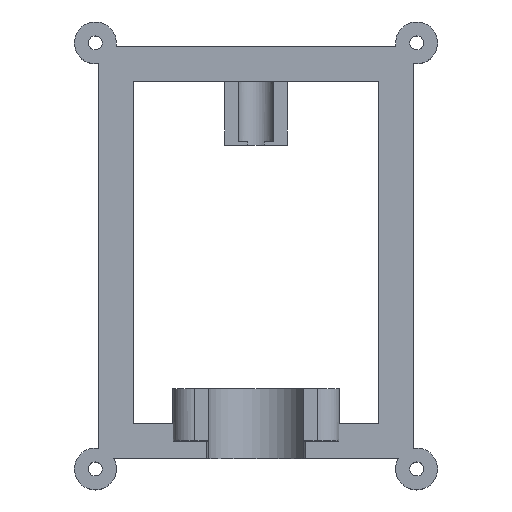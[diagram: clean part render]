
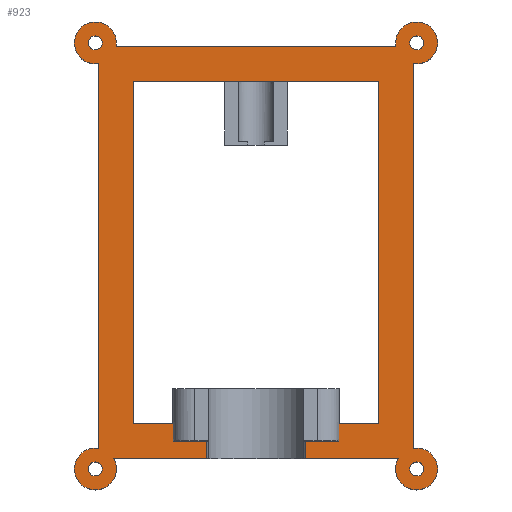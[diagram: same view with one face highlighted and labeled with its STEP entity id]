
A CAD part, top view. The second image highlights one B-rep face of the part: STEP entity #923.
In plain terms, the highlighted planar face has unit normal (0, 0, 1).
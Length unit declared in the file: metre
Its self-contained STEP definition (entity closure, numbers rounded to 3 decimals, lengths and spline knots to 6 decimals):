
#34=LINE('',#1378,#114);
#35=LINE('',#1383,#115);
#36=LINE('',#1387,#116);
#37=LINE('',#1391,#117);
#38=LINE('',#1393,#118);
#39=LINE('',#1395,#119);
#40=LINE('',#1397,#120);
#41=LINE('',#1399,#121);
#42=LINE('',#1401,#122);
#43=LINE('',#1403,#123);
#44=LINE('',#1405,#124);
#45=LINE('',#1407,#125);
#46=LINE('',#1409,#126);
#47=LINE('',#1411,#127);
#48=LINE('',#1413,#128);
#49=LINE('',#1415,#129);
#114=VECTOR('',#1096,1.);
#115=VECTOR('',#1099,1.);
#116=VECTOR('',#1102,1.);
#117=VECTOR('',#1105,1.);
#118=VECTOR('',#1106,1.);
#119=VECTOR('',#1107,1.);
#120=VECTOR('',#1108,1.);
#121=VECTOR('',#1109,1.);
#122=VECTOR('',#1110,1.);
#123=VECTOR('',#1111,1.);
#124=VECTOR('',#1112,1.);
#125=VECTOR('',#1113,1.);
#126=VECTOR('',#1114,1.);
#127=VECTOR('',#1115,1.);
#128=VECTOR('',#1116,1.);
#129=VECTOR('',#1117,1.);
#194=ORIENTED_EDGE('',*,*,#458,.T.);
#195=ORIENTED_EDGE('',*,*,#459,.F.);
#196=ORIENTED_EDGE('',*,*,#460,.F.);
#197=ORIENTED_EDGE('',*,*,#461,.F.);
#198=ORIENTED_EDGE('',*,*,#462,.T.);
#199=ORIENTED_EDGE('',*,*,#463,.F.);
#200=ORIENTED_EDGE('',*,*,#464,.T.);
#201=ORIENTED_EDGE('',*,*,#465,.T.);
#202=ORIENTED_EDGE('',*,*,#466,.T.);
#203=ORIENTED_EDGE('',*,*,#467,.T.);
#204=ORIENTED_EDGE('',*,*,#468,.T.);
#205=ORIENTED_EDGE('',*,*,#469,.T.);
#206=ORIENTED_EDGE('',*,*,#470,.F.);
#207=ORIENTED_EDGE('',*,*,#471,.F.);
#208=ORIENTED_EDGE('',*,*,#472,.F.);
#209=ORIENTED_EDGE('',*,*,#473,.T.);
#210=ORIENTED_EDGE('',*,*,#474,.T.);
#211=ORIENTED_EDGE('',*,*,#475,.F.);
#212=ORIENTED_EDGE('',*,*,#476,.T.);
#213=ORIENTED_EDGE('',*,*,#477,.T.);
#214=ORIENTED_EDGE('',*,*,#478,.F.);
#215=ORIENTED_EDGE('',*,*,#479,.T.);
#216=ORIENTED_EDGE('',*,*,#480,.T.);
#217=ORIENTED_EDGE('',*,*,#481,.T.);
#458=EDGE_CURVE('',#590,#590,#684,.T.);
#459=EDGE_CURVE('',#591,#591,#685,.T.);
#460=EDGE_CURVE('',#592,#592,#686,.T.);
#461=EDGE_CURVE('',#593,#594,#34,.T.);
#462=EDGE_CURVE('',#593,#595,#687,.T.);
#463=EDGE_CURVE('',#596,#595,#35,.T.);
#464=EDGE_CURVE('',#596,#597,#688,.T.);
#465=EDGE_CURVE('',#597,#598,#36,.T.);
#466=EDGE_CURVE('',#598,#599,#689,.T.);
#467=EDGE_CURVE('',#599,#600,#37,.T.);
#468=EDGE_CURVE('',#600,#601,#38,.T.);
#469=EDGE_CURVE('',#601,#602,#39,.T.);
#470=EDGE_CURVE('',#603,#602,#40,.T.);
#471=EDGE_CURVE('',#604,#603,#41,.T.);
#472=EDGE_CURVE('',#605,#604,#42,.T.);
#473=EDGE_CURVE('',#605,#606,#43,.T.);
#474=EDGE_CURVE('',#606,#607,#44,.T.);
#475=EDGE_CURVE('',#608,#607,#45,.T.);
#476=EDGE_CURVE('',#608,#609,#46,.T.);
#477=EDGE_CURVE('',#609,#610,#47,.T.);
#478=EDGE_CURVE('',#611,#610,#48,.T.);
#479=EDGE_CURVE('',#611,#612,#49,.T.);
#480=EDGE_CURVE('',#612,#594,#690,.T.);
#481=EDGE_CURVE('',#613,#613,#691,.T.);
#590=VERTEX_POINT('',#1373);
#591=VERTEX_POINT('',#1375);
#592=VERTEX_POINT('',#1377);
#593=VERTEX_POINT('',#1379);
#594=VERTEX_POINT('',#1380);
#595=VERTEX_POINT('',#1382);
#596=VERTEX_POINT('',#1384);
#597=VERTEX_POINT('',#1386);
#598=VERTEX_POINT('',#1388);
#599=VERTEX_POINT('',#1390);
#600=VERTEX_POINT('',#1392);
#601=VERTEX_POINT('',#1394);
#602=VERTEX_POINT('',#1396);
#603=VERTEX_POINT('',#1398);
#604=VERTEX_POINT('',#1400);
#605=VERTEX_POINT('',#1402);
#606=VERTEX_POINT('',#1404);
#607=VERTEX_POINT('',#1406);
#608=VERTEX_POINT('',#1408);
#609=VERTEX_POINT('',#1410);
#610=VERTEX_POINT('',#1412);
#611=VERTEX_POINT('',#1414);
#612=VERTEX_POINT('',#1416);
#613=VERTEX_POINT('',#1419);
#684=CIRCLE('',#986,0.002);
#685=CIRCLE('',#987,0.002);
#686=CIRCLE('',#988,0.002);
#687=CIRCLE('',#989,0.006);
#688=CIRCLE('',#990,0.006);
#689=CIRCLE('',#991,0.006);
#690=CIRCLE('',#992,0.006);
#691=CIRCLE('',#993,0.002);
#736=EDGE_LOOP('',(#194));
#737=EDGE_LOOP('',(#195));
#738=EDGE_LOOP('',(#196));
#739=EDGE_LOOP('',(#197,#198,#199,#200,#201,#202,#203,#204,#205,#206,#207,
#208,#209,#210,#211,#212,#213,#214,#215,#216));
#740=EDGE_LOOP('',(#217));
#816=FACE_BOUND('',#736,.T.);
#817=FACE_BOUND('',#737,.T.);
#818=FACE_BOUND('',#738,.T.);
#819=FACE_BOUND('',#739,.T.);
#820=FACE_BOUND('',#740,.T.);
#896=PLANE('',#985);
#923=ADVANCED_FACE('',(#816,#817,#818,#819,#820),#896,.T.);
#985=AXIS2_PLACEMENT_3D('',#1371,#1088,#1089);
#986=AXIS2_PLACEMENT_3D('',#1372,#1090,#1091);
#987=AXIS2_PLACEMENT_3D('',#1374,#1092,#1093);
#988=AXIS2_PLACEMENT_3D('',#1376,#1094,#1095);
#989=AXIS2_PLACEMENT_3D('',#1381,#1097,#1098);
#990=AXIS2_PLACEMENT_3D('',#1385,#1100,#1101);
#991=AXIS2_PLACEMENT_3D('',#1389,#1103,#1104);
#992=AXIS2_PLACEMENT_3D('',#1417,#1118,#1119);
#993=AXIS2_PLACEMENT_3D('',#1418,#1120,#1121);
#1088=DIRECTION('',(0.,0.,1.));
#1089=DIRECTION('',(1.,0.,0.));
#1090=DIRECTION('',(0.,0.,-1.));
#1091=DIRECTION('',(1.,0.,0.));
#1092=DIRECTION('',(0.,0.,1.));
#1093=DIRECTION('',(1.,0.,0.));
#1094=DIRECTION('',(0.,0.,1.));
#1095=DIRECTION('',(1.,0.,0.));
#1096=DIRECTION('',(0.,-1.,0.));
#1097=DIRECTION('',(0.,0.,1.));
#1098=DIRECTION('',(1.,0.,0.));
#1099=DIRECTION('',(1.,0.,0.));
#1100=DIRECTION('',(0.,0.,1.));
#1101=DIRECTION('',(1.,0.,0.));
#1102=DIRECTION('',(0.,-1.,0.));
#1103=DIRECTION('',(0.,0.,1.));
#1104=DIRECTION('',(1.,0.,0.));
#1105=DIRECTION('',(1.,0.,0.));
#1106=DIRECTION('',(0.,1.,0.));
#1107=DIRECTION('',(-1.,0.,0.));
#1108=DIRECTION('',(0.,-1.,0.));
#1109=DIRECTION('',(1.,0.,0.));
#1110=DIRECTION('',(0.,-1.,0.));
#1111=DIRECTION('',(1.,0.,0.));
#1112=DIRECTION('',(0.,-1.,0.));
#1113=DIRECTION('',(1.,0.,0.));
#1114=DIRECTION('',(0.,-1.,0.));
#1115=DIRECTION('',(-1.,0.,0.));
#1116=DIRECTION('',(0.,1.,0.));
#1117=DIRECTION('',(1.,0.,0.));
#1118=DIRECTION('',(0.,0.,1.));
#1119=DIRECTION('',(1.,0.,0.));
#1120=DIRECTION('',(0.,0.,-1.));
#1121=DIRECTION('',(1.,0.,0.));
#1371=CARTESIAN_POINT('',(0.,0.,0.006));
#1372=CARTESIAN_POINT('',(-0.046,-0.062,0.006));
#1373=CARTESIAN_POINT('',(-0.044,-0.062,0.006));
#1374=CARTESIAN_POINT('',(0.046,-0.062,0.006));
#1375=CARTESIAN_POINT('',(0.048,-0.062,0.006));
#1376=CARTESIAN_POINT('',(-0.046,0.06,0.006));
#1377=CARTESIAN_POINT('',(-0.044,0.06,0.006));
#1378=CARTESIAN_POINT('',(0.045,0.,0.006));
#1379=CARTESIAN_POINT('',(0.045,0.054084,0.006));
#1380=CARTESIAN_POINT('',(0.045,-0.056084,0.006));
#1381=CARTESIAN_POINT('',(0.046,0.06,0.006));
#1382=CARTESIAN_POINT('',(0.040084,0.059,0.006));
#1383=CARTESIAN_POINT('',(0.,0.059,0.006));
#1384=CARTESIAN_POINT('',(-0.040084,0.059,0.006));
#1385=CARTESIAN_POINT('',(-0.046,0.06,0.006));
#1386=CARTESIAN_POINT('',(-0.045,0.054084,0.006));
#1387=CARTESIAN_POINT('',(-0.045,0.,0.006));
#1388=CARTESIAN_POINT('',(-0.045,-0.056084,0.006));
#1389=CARTESIAN_POINT('',(-0.046,-0.062,0.006));
#1390=CARTESIAN_POINT('',(-0.040804,-0.059,0.006));
#1391=CARTESIAN_POINT('',(0.,-0.059,0.006));
#1392=CARTESIAN_POINT('',(-0.014038,-0.059,0.006));
#1393=CARTESIAN_POINT('',(-0.014038,-0.059002,0.006));
#1394=CARTESIAN_POINT('',(-0.014038,-0.054,0.006));
#1395=CARTESIAN_POINT('',(0.,-0.054,0.006));
#1396=CARTESIAN_POINT('',(-0.023519,-0.054,0.006));
#1397=CARTESIAN_POINT('',(-0.023519,-0.039,0.006));
#1398=CARTESIAN_POINT('',(-0.023519,-0.049,0.006));
#1399=CARTESIAN_POINT('',(0.,-0.049,0.006));
#1400=CARTESIAN_POINT('',(-0.035,-0.049,0.006));
#1401=CARTESIAN_POINT('',(-0.035,0.,0.006));
#1402=CARTESIAN_POINT('',(-0.035,0.049,0.006));
#1403=CARTESIAN_POINT('',(0.,0.049,0.006));
#1404=CARTESIAN_POINT('',(0.035,0.049,0.006));
#1405=CARTESIAN_POINT('',(0.035,0.,0.006));
#1406=CARTESIAN_POINT('',(0.035,-0.049,0.006));
#1407=CARTESIAN_POINT('',(0.,-0.049,0.006));
#1408=CARTESIAN_POINT('',(0.023519,-0.049,0.006));
#1409=CARTESIAN_POINT('',(0.023519,-0.039,0.006));
#1410=CARTESIAN_POINT('',(0.023519,-0.054,0.006));
#1411=CARTESIAN_POINT('',(0.,-0.054,0.006));
#1412=CARTESIAN_POINT('',(0.014038,-0.054,0.006));
#1413=CARTESIAN_POINT('',(0.014038,-0.059002,0.006));
#1414=CARTESIAN_POINT('',(0.014038,-0.059,0.006));
#1415=CARTESIAN_POINT('',(0.,-0.059,0.006));
#1416=CARTESIAN_POINT('',(0.040804,-0.059,0.006));
#1417=CARTESIAN_POINT('',(0.046,-0.062,0.006));
#1418=CARTESIAN_POINT('',(0.046,0.06,0.006));
#1419=CARTESIAN_POINT('',(0.048,0.06,0.006));
